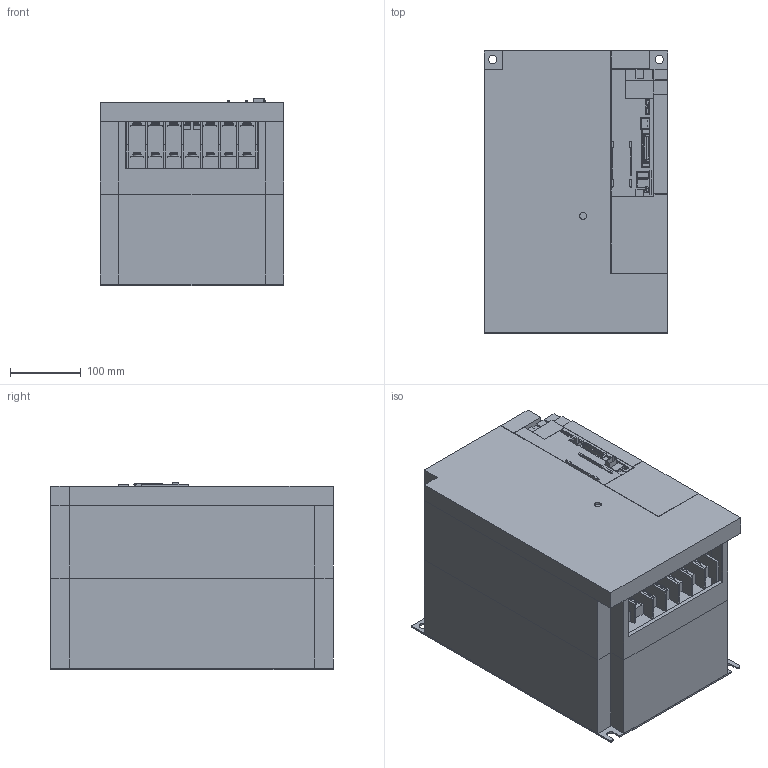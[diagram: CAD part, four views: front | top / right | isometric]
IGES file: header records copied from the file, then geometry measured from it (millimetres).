
Start section: SolidWorks IGES file using analytic representation for surfaces
Global section: file name: C:\work\mr-j3-11ka_a.igs; native system: SolidWorks 2006 by SolidWorks Corporation; preprocessor: SolidWorks 2006 by SolidWorks Corporation; author: user; date: 091201.114012; units: millimetre
Bounding box: 260 x 400 x 266 mm (x, y, z)
Volume: 14387691 mm3; surface area: 1558672.5 mm2
Topology: 34 solids, 34 shells, 1229 faces, 3287 edges, 2183 vertices
Faces by surface type: plane 811, revolution 373, bspline 45
